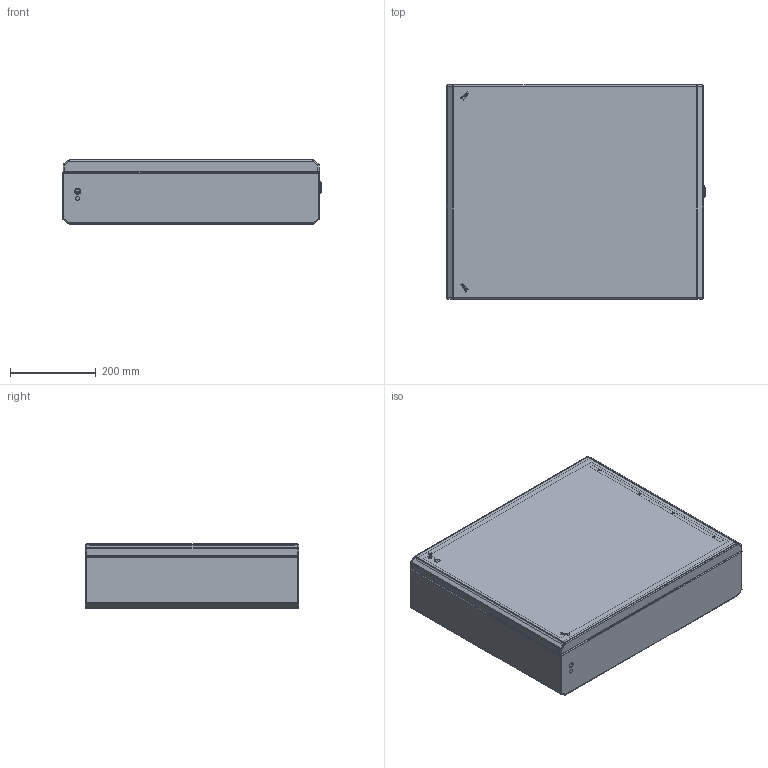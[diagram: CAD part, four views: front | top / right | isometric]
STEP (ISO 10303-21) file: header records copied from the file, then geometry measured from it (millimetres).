
FILE_DESCRIPTION (( 'STEP AP203' ), '1' );
FILE_NAME ('BK65A-COM.step', '2023-09-19T13:20:06', ( '' ), ( '' ), 'SwSTEP 2.0', 'SolidWorks 2021', '' );
FILE_SCHEMA (( 'CONFIG_CONTROL_DESIGN' ));
Length unit declared in the file: millimetre
Products named in the file (20): 1000-24^1000-u183_ SG215S_Assiemi Box serie BK33-BK75M; 1000-02-RA_1^ 1000-U134_ SG215S_Assiemi Box serie BK33-BK75M; 1000-277-01PI^1000-u183_ SG215S_Assiemi Box serie BK33-BK75M; Guarnizione Schiumata 13x6.5_GBK65-GBK65M; Scarpetta Box serie BK; LOGO_ILINOX; OLD-ADMT_ADMT; Piastra di rinforzo Fasciame per BK65-BK65M_PRFABK65-BK65M; 1000-03-PG^1000-u183_ SG215S_Assiemi Box serie BK33-BK75M; Staffa Serraggio Box BK_SSBKH500; Porte Box BK33-BK75M_POBK65; Parte7^ SG215S_Assiemi Box serie BK33-BK75M;  SG215S^Assiemi Box serie BK33-BK75M_Chiusura_BASSO; PRM615TL316; 1000-156-01^1000-u183_ SG215S_Assiemi Box serie BK33-BK75M;  1000-U134^ SG215S_Assiemi Box serie BK33-BK75M; BK65A-COM; 1000-u183^ SG215S_Assiemi Box serie BK33-BK75M; 1000-101-GPF_GPD_1^ 1000-U134_ SG215S_Assiemi Box serie BK33-BK75M; Fasciame FABK33- FABK75M_FABK65
Assembly tree (24 placements, depth 4):
  BK65A-COM
    Fasciame FABK33- FABK75M_FABK65
    Porte Box BK33-BK75M_POBK65
    Guarnizione Schiumata 13x6.5_GBK65-GBK65M
    Staffa Serraggio Box BK_SSBKH500
    Scarpetta Box serie BK
    Piastra di rinforzo Fasciame per BK65-BK65M_PRFABK65-BK65M
     SG215S^Assiemi Box serie BK33-BK75M_Chiusura_BASSO
       1000-U134^ SG215S_Assiemi Box serie BK33-BK75M
        1000-101-GPF_GPD_1^ 1000-U134_ SG215S_Assiemi Box serie BK33-BK75M
        1000-02-RA_1^ 1000-U134_ SG215S_Assiemi Box serie BK33-BK75M
      1000-u183^ SG215S_Assiemi Box serie BK33-BK75M
        1000-156-01^1000-u183_ SG215S_Assiemi Box serie BK33-BK75M
        1000-03-PG^1000-u183_ SG215S_Assiemi Box serie BK33-BK75M
        1000-24^1000-u183_ SG215S_Assiemi Box serie BK33-BK75M
        1000-277-01PI^1000-u183_ SG215S_Assiemi Box serie BK33-BK75M
      Parte7^ SG215S_Assiemi Box serie BK33-BK75M
    OLD-ADMT_ADMT  x2
    LOGO_ILINOX  x2
    PRM615TL316  x4
Bounding box: 604 x 500 x 150.1 mm (x, y, z)
Volume: 1732631.8 mm3; surface area: 2178606.8 mm2
Topology: 42 solids, 43 shells, 1073 faces, 2533 edges, 1550 vertices
Faces by surface type: plane 560, cylinder 384, sphere 42, cone 40, bspline 31, torus 16
Entity records: 31865 total; most frequent: CARTESIAN_POINT 7586, DIRECTION 4801, ORIENTED_EDGE 4415, EDGE_CURVE 2211, AXIS2_PLACEMENT_3D 1783, VERTEX_POINT 1368, LINE 1235, VECTOR 1235
